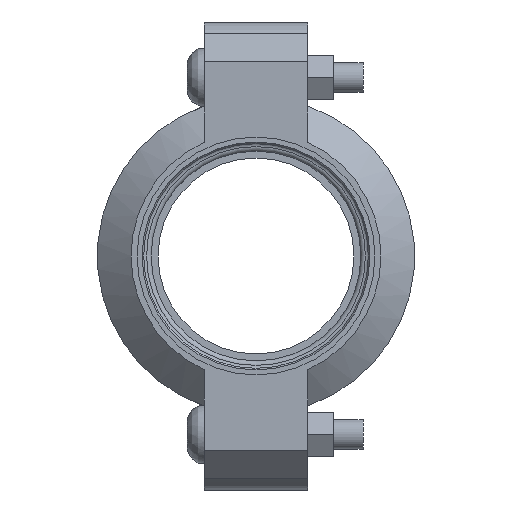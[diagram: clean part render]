
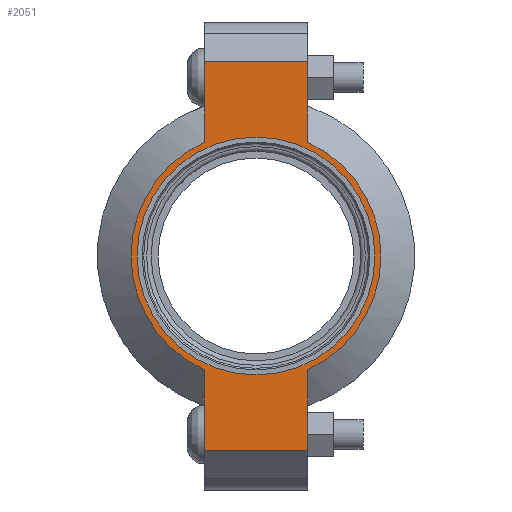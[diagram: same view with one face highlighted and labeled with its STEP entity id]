
A CAD part, left-side view. The second image highlights one B-rep face of the part: STEP entity #2051.
In plain terms, the highlighted planar face has unit normal (-1, 0, 0) as drawn and (0, 0, 1) by its records, which use the part's own axes.
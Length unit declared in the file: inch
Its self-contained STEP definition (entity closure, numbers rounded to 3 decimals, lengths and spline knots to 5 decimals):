
#166=LINE('',#3672,#267);
#179=LINE('',#3716,#280);
#184=LINE('',#3740,#285);
#191=LINE('',#3758,#292);
#198=LINE('',#3783,#299);
#199=LINE('',#3786,#300);
#267=VECTOR('',#2984,0.3937);
#280=VECTOR('',#3013,0.3937);
#285=VECTOR('',#3024,0.3937);
#292=VECTOR('',#3041,0.3937);
#299=VECTOR('',#3062,0.3937);
#300=VECTOR('',#3067,0.3937);
#356=FACE_BOUND('',#626,.T.);
#402=PLANE('',#2418);
#499=FACE_OUTER_BOUND('',#625,.T.);
#625=EDGE_LOOP('',(#1794,#1795,#1796,#1797,#1798,#1799,#1800,#1801));
#626=EDGE_LOOP('',(#1802));
#770=CIRCLE('',#2356,1.5);
#798=CIRCLE('',#2419,1.575);
#799=CIRCLE('',#2420,1.575);
#921=VERTEX_POINT('',#3460);
#964=VERTEX_POINT('',#3667);
#965=VERTEX_POINT('',#3671);
#981=VERTEX_POINT('',#3713);
#982=VERTEX_POINT('',#3715);
#988=VERTEX_POINT('',#3735);
#989=VERTEX_POINT('',#3739);
#994=VERTEX_POINT('',#3755);
#995=VERTEX_POINT('',#3757);
#1160=EDGE_CURVE('',#921,#921,#770,.T.);
#1222=EDGE_CURVE('',#965,#964,#166,.T.);
#1242=EDGE_CURVE('',#982,#981,#179,.T.);
#1251=EDGE_CURVE('',#989,#988,#184,.T.);
#1260=EDGE_CURVE('',#995,#994,#191,.T.);
#1272=EDGE_CURVE('',#989,#981,#198,.T.);
#1273=EDGE_CURVE('',#988,#995,#798,.T.);
#1274=EDGE_CURVE('',#965,#994,#199,.T.);
#1275=EDGE_CURVE('',#964,#982,#799,.T.);
#1794=ORIENTED_EDGE('',*,*,#1272,.F.);
#1795=ORIENTED_EDGE('',*,*,#1251,.T.);
#1796=ORIENTED_EDGE('',*,*,#1273,.T.);
#1797=ORIENTED_EDGE('',*,*,#1260,.T.);
#1798=ORIENTED_EDGE('',*,*,#1274,.F.);
#1799=ORIENTED_EDGE('',*,*,#1222,.T.);
#1800=ORIENTED_EDGE('',*,*,#1275,.T.);
#1801=ORIENTED_EDGE('',*,*,#1242,.T.);
#1802=ORIENTED_EDGE('',*,*,#1160,.T.);
#2051=ADVANCED_FACE('',(#499,#356),#402,.T.);
#2356=AXIS2_PLACEMENT_3D('',#3462,#2864,#2865);
#2418=AXIS2_PLACEMENT_3D('',#3784,#3063,#3064);
#2419=AXIS2_PLACEMENT_3D('',#3785,#3065,#3066);
#2420=AXIS2_PLACEMENT_3D('',#3787,#3068,#3069);
#2864=DIRECTION('center_axis',(0.,0.,-1.));
#2865=DIRECTION('ref_axis',(1.,0.,0.));
#2984=DIRECTION('',(1.,0.,0.));
#3013=DIRECTION('',(1.,0.,0.));
#3024=DIRECTION('',(-1.,0.,0.));
#3041=DIRECTION('',(-1.,0.,0.));
#3062=DIRECTION('',(0.,-1.,0.));
#3063=DIRECTION('center_axis',(0.,0.,1.));
#3064=DIRECTION('ref_axis',(-1.,0.,0.));
#3065=DIRECTION('center_axis',(0.,0.,1.));
#3066=DIRECTION('ref_axis',(1.,0.,0.));
#3067=DIRECTION('',(0.,1.,0.));
#3068=DIRECTION('center_axis',(0.,0.,1.));
#3069=DIRECTION('ref_axis',(1.,0.,0.));
#3460=CARTESIAN_POINT('',(-1.5,0.,0.94));
#3462=CARTESIAN_POINT('Origin',(0.,0.,0.94));
#3667=CARTESIAN_POINT('',(-1.43462,-0.65,0.94));
#3671=CARTESIAN_POINT('',(-2.45,-0.65,0.94));
#3672=CARTESIAN_POINT('',(2.95,-0.65,0.94));
#3713=CARTESIAN_POINT('',(2.45,-0.65,0.94));
#3715=CARTESIAN_POINT('',(1.43462,-0.65,0.94));
#3716=CARTESIAN_POINT('',(2.95,-0.65,0.94));
#3735=CARTESIAN_POINT('',(1.43462,0.65,0.94));
#3739=CARTESIAN_POINT('',(2.45,0.65,0.94));
#3740=CARTESIAN_POINT('',(-2.95,0.65,0.94));
#3755=CARTESIAN_POINT('',(-2.45,0.65,0.94));
#3757=CARTESIAN_POINT('',(-1.43462,0.65,0.94));
#3758=CARTESIAN_POINT('',(-2.95,0.65,0.94));
#3783=CARTESIAN_POINT('',(2.45,-0.325,0.94));
#3784=CARTESIAN_POINT('Origin',(0.,0.,
0.94));
#3785=CARTESIAN_POINT('Origin',(0.,0.,0.94));
#3786=CARTESIAN_POINT('',(-2.45,0.325,0.94));
#3787=CARTESIAN_POINT('Origin',(0.,0.,0.94));
